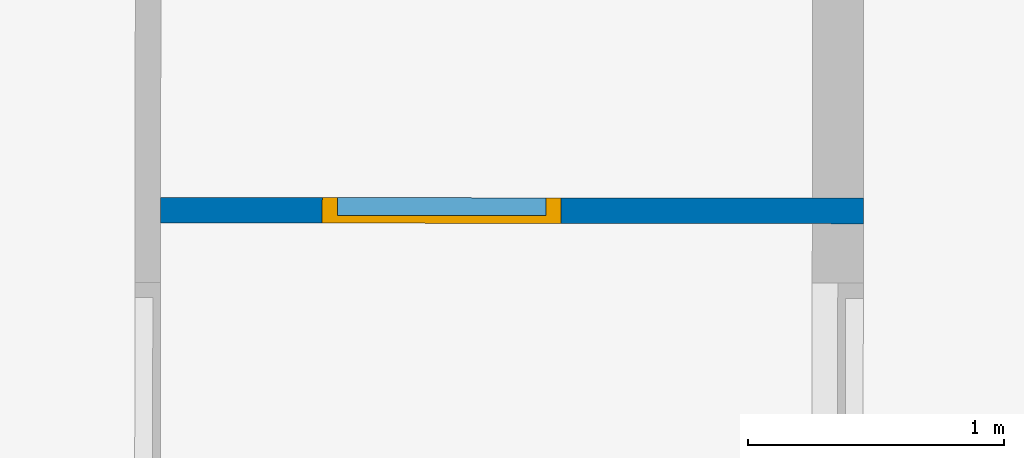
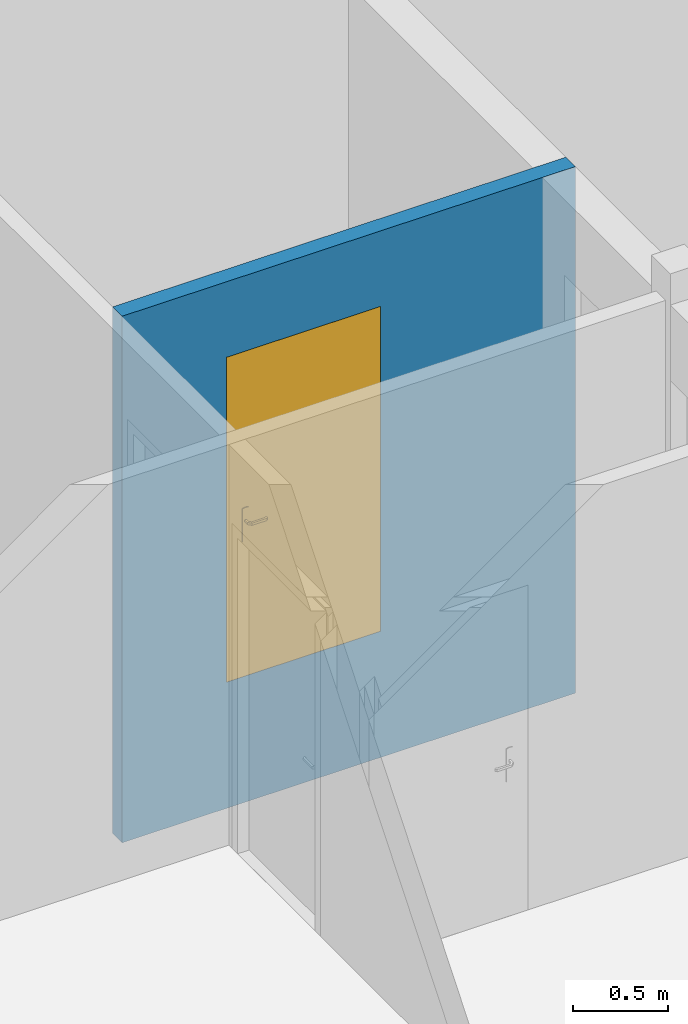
# One storey, part 7 of 24: 1 door, 1 wall, 1 opening.
"""IFC2X3 building model written with IfcOpenShell, lengths in metres."""

from ifc_helpers import new_model, entity, si_unit, converted_unit, derived_unit, direction, frame, frame_2d, origin, place, context, subcontext, project, spatial, rectangle, extrude, faceted_brep, source, transform, mapped, material, material_list, layer, layer_set, layer_usage, type_object, type_shapes, element, fill, save


model = new_model("IFC2X3")

# Units and contexts
model_context = context("Model", 3, precision=1e-05, world=origin(), true_north=direction((6.123233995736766e-17, 1.0)))
body_context = subcontext(model_context, "Body", "Model", "MODEL_VIEW")
ifc_project = project(units=[si_unit("LENGTHUNIT", "METRE"), si_unit("AREAUNIT", "SQUARE_METRE"), converted_unit("PLANEANGLEUNIT", "DEGREE", entity("IfcPlaneAngleMeasure", 0.017453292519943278), si_unit("PLANEANGLEUNIT", "RADIAN"), dimensions=[0, 0, 0, 0, 0, 0, 0]), derived_unit("THERMALTRANSMITTANCEUNIT", [(si_unit("MASSUNIT", "GRAM", prefix="KILO"), 1), (si_unit("THERMODYNAMICTEMPERATUREUNIT", "KELVIN"), -1), (si_unit("TIMEUNIT", "SECOND"), -3)])], contexts=[model_context])

# Site, building, storey
site_placement = place(None, frame((1253.6752467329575, 2072.143113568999, 91.49999999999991), z_axis=(0.0, 0.0, 1.0), x_axis=(0.7237211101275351, 0.6900925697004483, 0.0)))
site = spatial("IfcSite", under=ifc_project, at=site_placement, Name="Surface", CompositionType="ELEMENT")
building_placement = place(site_placement, origin())
building = spatial("IfcBuilding", under=site, at=building_placement, CompositionType="ELEMENT")
storey_placement = place(building_placement, frame((0.0, 0.0, -7.049999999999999)))
storey = spatial("IfcBuildingStorey", under=building, at=storey_placement, Name="R-1", CompositionType="ELEMENT", Elevation=-7.049999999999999)

# Wall, opening, door
ifc_material_1 = material(Name="OMD_Béton blanc")
ifc_layer = layer(ifc_material_1, 0.1)
ifc_layer_set = layer_set([ifc_layer], Name="Mur de base:MUR 10")
ifc_layer_usage = layer_usage(ifc_layer_set, "AXIS2", "NEGATIVE", 0.05)
wall_type = type_object("IfcWallType", Name="Mur de base:MUR 10", PredefinedType="STANDARD", material=ifc_layer_set)
wall_placement = place(storey_placement, frame((168.72552115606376, 22.15855476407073, -0.08000000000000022), z_axis=(0.0, 0.0, 1.0), x_axis=(-0.7228702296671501, 0.6909838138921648, 0.0)))
wall = element("IfcWallStandardCase", 1, at=wall_placement, inside=storey, type_object=wall_type, material=ifc_layer_usage, Name="Mur de base:MUR 10", ObjectType="Mur de base:MUR 10", context=body_context, shape_type="SweptSolid", body=[
    extrude(rectangle(XDim=2.749996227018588, YDim=0.10000000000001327, at=frame_2d((1.374998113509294, -2.5049406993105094e-15), x_axis=(-1.0, 0.0))), origin(), (0.0, 0.0, 1.0), 3.379999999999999),
])
opening_placement = place(wall_placement, frame((1.1824962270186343, -0.050000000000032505, 0.8099999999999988)))
opening = element("IfcOpeningElement", 2, at=opening_placement, cuts=wall, Name="OMD_Porte 1V tunnel:80x204:1", ObjectType="Opening", context=body_context, shape_type="SweptSolid", body=[
    extrude(rectangle(XDim=2.0850000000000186, YDim=0.9349999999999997, at=frame_2d((1.0425000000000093, 0.46749999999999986), x_axis=(1.0, 0.0))), frame((0.0, 0.0, 0.0), z_axis=(0.0, 1.0, 0.0), x_axis=(0.0, 0.0, 1.0)), (0.0, 0.0, 1.0), 0.09999999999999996),
])
ifc_material_2 = material(Name="Porte - Poignée")
ifc_material_3 = material(Name="OMD_Peinture mur")
ifc_material_4 = material(Name="OMD_Bois")
ifc_material_list = material_list([ifc_material_2, ifc_material_3, ifc_material_4])
door_style = type_object("IfcDoorStyle", Name="OMD_Porte 1V tunnel:80x204", ConstructionType="NOTDEFINED", OperationType="NOTDEFINED", ParameterTakesPrecedence=False, Sizeable=False, material=ifc_material_list)
shared_shape = source(origin(), body_context, "Body", "Brep", [
    faceted_brep([(0.21297470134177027, 0.03500000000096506, 1.0077804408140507), (0.20900000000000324, 0.03500000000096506, 1.0069999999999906), (0.208999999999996, 0.03500000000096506, 0.9929999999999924), (0.21297470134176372, 0.03500000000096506, 0.9922195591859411), (0.21702529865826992, 0.03500000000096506, 0.9922195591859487), (0.22100000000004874, 0.03500000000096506, 0.9930000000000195), (0.22100000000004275, 0.03500000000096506, 1.0069999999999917), (0.2170252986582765, 0.03500000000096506, 1.007780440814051), (0.22100000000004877, 0.05748520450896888, 0.9930000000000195), (0.22100000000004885, 0.057485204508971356, 1.0069999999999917), (0.21702529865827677, 0.059131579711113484, 1.007780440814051), (0.23083890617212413, 0.07294518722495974, 1.007780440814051), (0.2291610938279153, 0.07699578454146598, 1.0077804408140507), (0.21297470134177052, 0.060809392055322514, 1.0077804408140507), (0.3206847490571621, 0.0664673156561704, 1.0077804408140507), (0.32354895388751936, 0.06933152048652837, 1.0077804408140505), (0.31588468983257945, 0.07699578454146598, 1.0077804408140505), (0.31420687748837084, 0.07294518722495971, 1.0077804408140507), (0.20900000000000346, 0.06245576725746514, 1.0069999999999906), (0.20900000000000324, 0.06245576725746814, 0.9929999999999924), (0.21297470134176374, 0.06080939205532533, 0.9922195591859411), (0.22916109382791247, 0.07699578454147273, 0.9922195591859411), (0.23083890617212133, 0.07294518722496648, 0.9922195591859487), (0.21702529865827, 0.05913157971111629, 0.9922195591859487), (0.32354895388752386, 0.06933152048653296, 0.9922195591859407), (0.3206847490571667, 0.06646731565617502, 0.9922195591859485), (0.3142068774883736, 0.07294518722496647, 0.9922195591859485), (0.3158846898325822, 0.07699578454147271, 0.9922195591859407), (0.23248528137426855, 0.0689704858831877, 0.9930000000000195), (0.23248528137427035, 0.06897048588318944, 1.0069999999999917), (0.22751471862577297, 0.0809704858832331, 1.0069999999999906), (0.22751471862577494, 0.08097048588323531, 0.9929999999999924), (0.2725228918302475, 0.06897048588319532, 0.9930000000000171), (0.3125605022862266, 0.06897048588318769, 0.9930000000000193), (0.31256050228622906, 0.06897048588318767, 1.0069999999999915), (0.2725228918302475, 0.0689704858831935, 1.0069999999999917), (0.2725228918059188, 0.07512492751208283, 1.0078781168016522), (0.31753106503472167, 0.08097048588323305, 1.0069999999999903), (0.2776005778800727, 0.08097048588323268, 1.0069999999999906), (0.31753106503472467, 0.08097048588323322, 0.9929999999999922), (0.2674452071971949, 0.08097048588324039, 0.9929999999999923), (0.2725228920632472, 0.07512492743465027, 0.9921218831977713), (0.317874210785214, 0.06365677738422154, 0.9930000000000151), (0.32635949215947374, 0.07214205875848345, 0.99299999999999), (0.3263594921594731, 0.07214205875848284, 1.0069999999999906), (0.317874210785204, 0.06365677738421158, 1.0069999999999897)], [[[0, 1, 2, 3, 4, 5, 6, 7]], [[6, 5, 8, 9]], [[9, 10, 7, 6]], [[10, 11, 12, 13, 0, 7]], [[14, 15, 16, 17]], [[13, 18, 1, 0]], [[2, 1, 18, 19]], [[19, 20, 3, 2]], [[20, 21, 22, 23, 4, 3]], [[24, 25, 26, 27]], [[23, 8, 5, 4]], [[9, 8, 28, 29]], [[29, 11, 10, 9]], [[12, 30, 18, 13]], [[19, 18, 30, 31]], [[31, 21, 20, 19]], [[22, 28, 8, 23]], [[29, 28, 32, 33, 34, 35]], [[11, 35, 36]], [[16, 37, 38]], [[30, 12, 38]], [[38, 12, 36]], [[36, 35, 17]], [[17, 16, 36]], [[35, 11, 29]], [[34, 17, 35]], [[11, 36, 12]], [[38, 36, 16]], [[31, 30, 38, 37, 39, 40]], [[40, 41, 21]], [[41, 40, 27]], [[21, 31, 40]], [[39, 27, 40]], [[41, 32, 22]], [[22, 21, 41]], [[26, 32, 41]], [[28, 22, 32]], [[32, 26, 33]], [[26, 41, 27]], [[42, 25, 24, 43, 44, 15, 14, 45]], [[34, 33, 42, 45]], [[45, 14, 17, 34]], [[15, 44, 37, 16]], [[39, 37, 44, 43]], [[43, 24, 27, 39]], [[25, 42, 33, 26]]]),
    faceted_brep([(0.21297470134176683, -0.004999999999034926, 1.0077804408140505), (0.2170252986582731, -0.004999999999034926, 1.007780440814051), (0.2210000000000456, -0.004999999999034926, 1.006999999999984), (0.22100000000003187, -0.004999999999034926, 0.9930000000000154), (0.21702529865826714, -0.004999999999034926, 0.9922195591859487), (0.21297470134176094, -0.004999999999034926, 0.992219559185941), (0.20900000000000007, -0.004999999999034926, 0.992999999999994), (0.20900000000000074, -0.004999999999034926, 1.0069999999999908), (0.20900000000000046, -0.03265095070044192, 1.0069999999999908), (0.21297470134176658, -0.03100457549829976, 1.0077804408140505), (0.22902358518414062, -0.04705345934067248, 1.0077804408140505), (0.2307013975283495, -0.04300286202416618, 1.007780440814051), (0.21702529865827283, -0.02932676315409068, 1.007780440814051), (0.3235218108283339, -0.039389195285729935, 1.0077804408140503), (0.3206576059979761, -0.03652499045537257, 1.0077804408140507), (0.3141797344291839, -0.04300286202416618, 1.0077804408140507), (0.31585754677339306, -0.04705345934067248, 1.0077804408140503), (0.22100000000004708, -0.027680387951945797, 1.0069999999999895), (0.22100000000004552, -0.02768038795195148, 0.9930000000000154), (0.21702529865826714, -0.029326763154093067, 0.9922195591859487), (0.23070139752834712, -0.04300286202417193, 0.9922195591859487), (0.2290235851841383, -0.0470534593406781, 0.992219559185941), (0.21297470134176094, -0.031004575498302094, 0.992219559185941), (0.32065760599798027, -0.036524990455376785, 0.9922195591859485), (0.3235218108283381, -0.03938919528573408, 0.9922195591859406), (0.31585754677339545, -0.047053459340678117, 0.9922195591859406), (0.3141797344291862, -0.04300286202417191, 0.9922195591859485), (0.20899999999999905, -0.032650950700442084, 0.9929999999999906), (0.22737720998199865, -0.051028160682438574, 1.0069999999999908), (0.23234777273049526, -0.03902816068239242, 1.0069999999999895), (0.23234777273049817, -0.03902816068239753, 0.9930000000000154), (0.22737720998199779, -0.051028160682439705, 0.9929999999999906), (0.2673076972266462, -0.05102816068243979, 1.0069999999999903), (0.272440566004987, -0.0451828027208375, 1.0078781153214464), (0.3175039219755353, -0.05102816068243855, 1.0069999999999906), (0.27244056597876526, -0.039028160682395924, 1.0069999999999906), (0.3125333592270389, -0.03902816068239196, 1.0069999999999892), (0.31253335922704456, -0.03902816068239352, 0.9930000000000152), (0.27244056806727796, -0.03902816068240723, 0.9930000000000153), (0.27244056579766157, -0.04518280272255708, 0.9921218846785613), (0.3175039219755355, -0.051028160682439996, 0.9929999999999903), (0.27757344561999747, -0.051028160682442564, 0.9929999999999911), (0.3178470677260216, -0.03371445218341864, 1.0069999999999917), (0.3263323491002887, -0.04219973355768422, 1.0069999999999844), (0.3263323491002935, -0.04219973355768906, 0.9929999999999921), (0.31784706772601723, -0.033714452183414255, 0.9930000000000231)], [[[0, 1, 2, 3, 4, 5, 6, 7]], [[8, 9, 0, 7]], [[9, 10, 11, 12, 1, 0]], [[13, 14, 15, 16]], [[12, 17, 2, 1]], [[3, 2, 17, 18]], [[18, 19, 4, 3]], [[19, 20, 21, 22, 5, 4]], [[23, 24, 25, 26]], [[22, 27, 6, 5]], [[7, 6, 27, 8]], [[28, 10, 9, 8]], [[11, 29, 17, 12]], [[18, 17, 29, 30]], [[30, 20, 19, 18]], [[21, 31, 27, 22]], [[8, 27, 31, 28]], [[32, 33, 10]], [[33, 32, 16]], [[10, 28, 32]], [[34, 16, 32]], [[33, 35, 11]], [[11, 10, 33]], [[15, 35, 33]], [[29, 11, 35]], [[35, 15, 36]], [[15, 33, 16]], [[30, 29, 35, 36, 37, 38]], [[20, 38, 39]], [[25, 40, 41]], [[31, 21, 41]], [[41, 21, 39]], [[39, 38, 26]], [[26, 25, 39]], [[38, 20, 30]], [[37, 26, 38]], [[20, 39, 21]], [[41, 39, 25]], [[28, 31, 41, 40, 34, 32]], [[42, 14, 13, 43, 44, 24, 23, 45]], [[43, 13, 16, 34]], [[14, 42, 36, 15]], [[37, 36, 42, 45]], [[45, 23, 26, 37]], [[24, 44, 40, 25]], [[34, 40, 44, 43]]]),
    faceted_brep([(0.22535276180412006, 0.030000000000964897, 0.8660039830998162), (0.2350000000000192, 0.030000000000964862, 0.8700000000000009), (0.2350000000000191, 0.030000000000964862, 1.0800000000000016), (0.2253527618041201, 0.030000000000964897, 1.0839960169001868), (0.21500000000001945, 0.030000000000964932, 1.0853589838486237), (0.20464723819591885, 0.03000000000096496, 1.0839960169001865), (0.19500000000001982, 0.030000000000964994, 1.0800000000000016), (0.19500000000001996, 0.030000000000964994, 0.8700000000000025), (0.20464723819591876, 0.03000000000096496, 0.866003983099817), (0.21500000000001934, 0.030000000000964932, 0.8646410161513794), (0.22535276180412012, 0.0350000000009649, 1.0839960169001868), (0.2350000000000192, 0.03500000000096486, 1.0800000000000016), (0.23500000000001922, 0.03500000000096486, 0.8700000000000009), (0.22535276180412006, 0.0350000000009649, 0.8660039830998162), (0.21500000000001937, 0.03500000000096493, 0.8646410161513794), (0.20464723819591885, 0.03500000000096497, 0.866003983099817), (0.19500000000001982, 0.035000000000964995, 0.8700000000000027), (0.19500000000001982, 0.035000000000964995, 1.0800000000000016), (0.20464723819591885, 0.03500000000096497, 1.0839960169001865), (0.21500000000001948, 0.03500000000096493, 1.0853589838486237)], [[[0, 1, 2, 3, 4, 5, 6, 7, 8, 9]], [[10, 11, 12, 13, 14, 15, 16, 17, 18, 19]], [[11, 10, 3, 2]], [[3, 10, 19, 4]], [[19, 18, 5, 4]], [[18, 17, 6, 5]], [[7, 6, 17, 16]], [[16, 15, 8, 7]], [[8, 15, 14, 9]], [[14, 13, 0, 9]], [[13, 12, 1, 0]], [[2, 1, 12, 11]]]),
    faceted_brep([(0.22535276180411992, -0.004999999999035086, 0.8660039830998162), (0.2350000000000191, -0.004999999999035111, 0.8700000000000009), (0.23500000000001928, -0.004999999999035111, 1.0800000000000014), (0.22535276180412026, -0.004999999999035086, 1.0839960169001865), (0.2150000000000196, -0.004999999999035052, 1.0853589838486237), (0.20464723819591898, -0.0049999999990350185, 1.0839960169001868), (0.19500000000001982, -0.004999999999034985, 1.0800000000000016), (0.19500000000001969, -0.004999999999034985, 0.8700000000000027), (0.20464723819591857, -0.0049999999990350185, 0.8660039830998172), (0.21500000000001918, -0.004999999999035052, 0.8646410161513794), (0.22535276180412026, 0.0, 1.0839960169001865), (0.2350000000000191, 0.0, 1.0800000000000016), (0.2350000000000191, 0.0, 0.8700000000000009), (0.22535276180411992, 0.0, 0.8660039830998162), (0.21500000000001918, 0.0, 0.8646410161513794), (0.20464723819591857, 0.0, 0.8660039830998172), (0.19500000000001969, 0.0, 0.8700000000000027), (0.19500000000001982, 0.0, 1.0800000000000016), (0.20464723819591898, 0.0, 1.0839960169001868), (0.2150000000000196, 0.0, 1.0853589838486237)], [[[0, 1, 2, 3, 4, 5, 6, 7, 8, 9]], [[10, 11, 12, 13, 14, 15, 16, 17, 18, 19]], [[16, 15, 8, 7]], [[8, 15, 14, 9]], [[14, 13, 0, 9]], [[13, 12, 1, 0]], [[2, 1, 12, 11]], [[11, 10, 3, 2]], [[3, 10, 19, 4]], [[19, 18, 5, 4]], [[18, 17, 6, 5]], [[7, 6, 17, 16]]]),
    faceted_brep([(0.14500000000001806, 0.030000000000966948, 0.0), (0.9900000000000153, 0.030000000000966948, 0.0), (0.9900000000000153, 0.0, 0.0), (0.14500000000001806, 0.0, 0.0), (0.14500000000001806, 0.030000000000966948, 2.04), (0.14500000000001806, 0.0, 2.04), (0.9900000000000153, 0.0, 2.04), (0.9900000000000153, 0.030000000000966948, 2.04)], [[[0, 1, 2, 3]], [[4, 0, 3, 5]], [[5, 3, 2, 6]], [[6, 2, 1, 7]], [[7, 1, 0, 4]], [[4, 5, 6, 7]]]),
    faceted_brep([(0.10000000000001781, 0.0, 0.0), (0.10000000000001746, 0.10000000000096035, 0.0), (0.16000000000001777, 0.10000000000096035, 0.0), (0.16000000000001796, 0.03000000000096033, 0.0), (0.145000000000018, 0.03000000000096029, 0.0), (0.14500000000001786, 0.0, 0.0), (0.145000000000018, 0.0, 2.04), (0.9900000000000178, 0.0, 2.0400000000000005), (0.9900000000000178, 0.0, 0.0), (1.0350000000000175, 0.0, 0.0), (1.0350000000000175, 0.0, 2.085), (0.10000000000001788, 0.0, 2.085), (0.14500000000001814, 0.030000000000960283, 2.04), (0.16000000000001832, 0.03000000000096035, 2.0249999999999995), (0.9750000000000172, 0.03000000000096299, 2.0249999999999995), (0.9750000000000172, 0.03000000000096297, 0.0), (0.9900000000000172, 0.03000000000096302, 0.0), (0.9900000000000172, 0.03000000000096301, 2.0399999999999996), (0.16000000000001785, 0.10000000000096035, 2.0249999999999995), (0.1000000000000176, 0.10000000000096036, 2.085), (1.0350000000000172, 0.10000000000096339, 2.085), (1.0350000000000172, 0.10000000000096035, 0.0), (0.9750000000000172, 0.10000000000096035, 0.0), (0.9750000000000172, 0.10000000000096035, 2.025)], [[[0, 1, 2, 3, 4, 5]], [[5, 6, 7, 8, 9, 10, 11, 0]], [[4, 12, 6, 5]], [[3, 13, 14, 15, 16, 17, 12, 4]], [[2, 18, 13, 3]], [[1, 19, 20, 21, 22, 23, 18, 2]], [[0, 11, 19, 1]], [[10, 9, 21, 20]], [[9, 8, 16, 15, 22, 21]], [[17, 16, 8, 7]], [[23, 22, 15, 14]], [[12, 17, 7, 6]], [[18, 23, 14, 13]], [[11, 10, 20, 19]]]),
])
type_shapes(door_style, [shared_shape])
door_placement = place(opening_placement, frame((1.034999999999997, 0.1000000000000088, 0.0), z_axis=(0.0, 0.0, 1.0), x_axis=(-1.0, 0.0, 0.0)))
door = element("IfcDoor", 3, at=door_placement, inside=storey, type_object=door_style, material=ifc_material_list, Name="OMD_Porte 1V tunnel:80x204", ObjectType="OMD_Porte 1V tunnel:80x204", OverallHeight=2.0850000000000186, OverallWidth=0.9350000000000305, context=body_context, shape_type="MappedRepresentation", body=[
    mapped(shared_shape, transform((0.0, 0.0, 0.0), scale=1.0)),
])
fill(opening, door)

save(model, "model.ifc")
